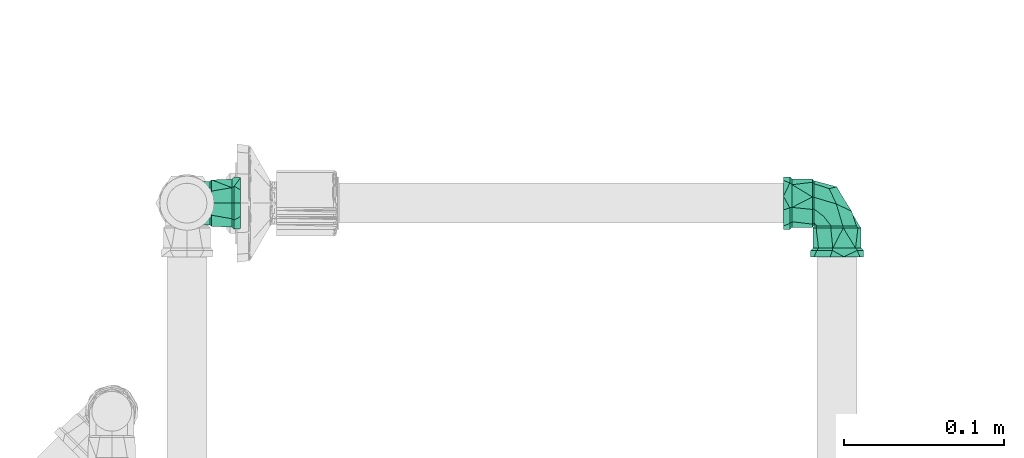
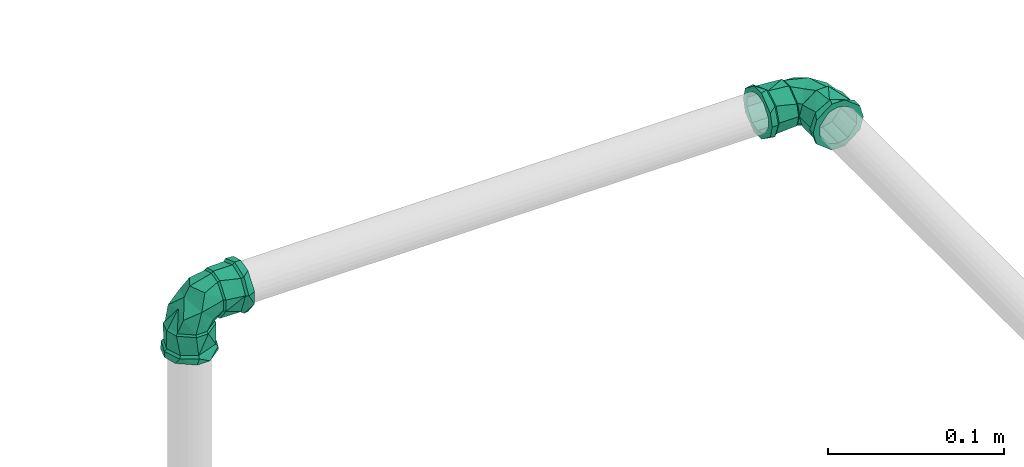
# One storey, part 382 of 589: 2 flow fittings.
"""IFC2X3 building model written with IfcOpenShell, lengths in millimetres."""

from ifc_helpers import new_model, entity, si_unit, converted_unit, derived_unit, direction, frame, origin, place, context, subcontext, project, spatial, faceted_brep, source, transform, mapped, material, type_object, type_shapes, element, save


model = new_model("IFC2X3")

# Units and contexts
model_context = context("Model", 3, precision=0.01, world=origin(), true_north=direction((6.123031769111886e-17, 1.0)))
body_context = subcontext(model_context, "Body", "Model", "MODEL_VIEW")
ifc_project = project(units=[si_unit("LENGTHUNIT", "METRE", prefix="MILLI"), si_unit("AREAUNIT", "SQUARE_METRE"), si_unit("VOLUMEUNIT", "CUBIC_METRE"), converted_unit("PLANEANGLEUNIT", "DEGREE", entity("IfcRatioMeasure", 0.017453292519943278), si_unit("PLANEANGLEUNIT", "RADIAN"), dimensions=[0, 0, 0, 0, 0, 0, 0]), si_unit("MASSUNIT", "GRAM", prefix="KILO"), derived_unit("MASSDENSITYUNIT", [(si_unit("MASSUNIT", "GRAM", prefix="KILO"), 1), (si_unit("LENGTHUNIT", "METRE"), -3)]), derived_unit("IONCONCENTRATIONUNIT", [(si_unit("MASSUNIT", "GRAM", prefix="KILO"), 1), (si_unit("LENGTHUNIT", "METRE"), -3)]), derived_unit("MOMENTOFINERTIAUNIT", [(si_unit("LENGTHUNIT", "METRE"), 4)]), si_unit("TIMEUNIT", "SECOND"), si_unit("FREQUENCYUNIT", "HERTZ"), si_unit("THERMODYNAMICTEMPERATUREUNIT", "DEGREE_CELSIUS"), derived_unit("THERMALTRANSMITTANCEUNIT", [(si_unit("MASSUNIT", "GRAM", prefix="KILO"), 1), (si_unit("THERMODYNAMICTEMPERATUREUNIT", "KELVIN"), -1), (si_unit("TIMEUNIT", "SECOND"), -3)]), derived_unit("THERMALCONDUCTANCEUNIT", [(si_unit("MASSUNIT", "GRAM", prefix="KILO"), 1), (si_unit("THERMODYNAMICTEMPERATUREUNIT", "KELVIN"), -1), (si_unit("TIMEUNIT", "SECOND"), -3), (si_unit("LENGTHUNIT", "METRE"), 1)]), derived_unit("VOLUMETRICFLOWRATEUNIT", [(si_unit("LENGTHUNIT", "METRE"), 3), (si_unit("TIMEUNIT", "SECOND"), -1)]), derived_unit("MASSFLOWRATEUNIT", [(si_unit("MASSUNIT", "GRAM", prefix="KILO"), 1), (si_unit("TIMEUNIT", "SECOND"), -1)]), derived_unit("ROTATIONALFREQUENCYUNIT", [(si_unit("TIMEUNIT", "SECOND"), -1)]), si_unit("ELECTRICCURRENTUNIT", "AMPERE"), si_unit("ELECTRICVOLTAGEUNIT", "VOLT"), si_unit("POWERUNIT", "WATT"), si_unit("FORCEUNIT", "NEWTON", prefix="KILO"), si_unit("ILLUMINANCEUNIT", "LUX"), si_unit("LUMINOUSFLUXUNIT", "LUMEN"), si_unit("LUMINOUSINTENSITYUNIT", "CANDELA"), derived_unit("USERDEFINED", [(si_unit("MASSUNIT", "GRAM", prefix="KILO"), -1), (si_unit("LENGTHUNIT", "METRE"), -2), (si_unit("TIMEUNIT", "SECOND"), 3), (si_unit("LUMINOUSFLUXUNIT", "LUMEN"), 1)]), derived_unit("USERDEFINED", [(si_unit("MASSUNIT", "GRAM", prefix="KILO"), 1), (si_unit("TIMEUNIT", "SECOND"), -3), (si_unit("LENGTHUNIT", "METRE"), 3), (si_unit("ELECTRICCURRENTUNIT", "AMPERE"), -2)]), derived_unit("SOUNDPOWERUNIT", [(si_unit("MASSUNIT", "GRAM", prefix="KILO"), 1), (si_unit("TIMEUNIT", "SECOND"), -3), (si_unit("LENGTHUNIT", "METRE"), 2)]), derived_unit("SOUNDPRESSUREUNIT", [(si_unit("MASSUNIT", "GRAM", prefix="KILO"), 1), (si_unit("LENGTHUNIT", "METRE"), -1), (si_unit("TIMEUNIT", "SECOND"), -2)]), derived_unit("LINEARVELOCITYUNIT", [(si_unit("LENGTHUNIT", "METRE"), 1), (si_unit("TIMEUNIT", "SECOND"), -1)]), si_unit("PRESSUREUNIT", "PASCAL"), derived_unit("USERDEFINED", [(si_unit("MASSUNIT", "GRAM", prefix="KILO"), 1), (si_unit("LENGTHUNIT", "METRE"), -2), (si_unit("TIMEUNIT", "SECOND"), -2)]), derived_unit("LINEARFORCEUNIT", [(si_unit("MASSUNIT", "GRAM", prefix="KILO"), 1), (si_unit("TIMEUNIT", "SECOND"), -2)]), derived_unit("PLANARFORCEUNIT", [(si_unit("MASSUNIT", "GRAM", prefix="KILO"), 1), (si_unit("LENGTHUNIT", "METRE"), -1), (si_unit("TIMEUNIT", "SECOND"), -2)]), derived_unit("SPECIFICHEATCAPACITYUNIT", [(si_unit("THERMODYNAMICTEMPERATUREUNIT", "KELVIN"), -1), (si_unit("LENGTHUNIT", "METRE"), 2), (si_unit("TIMEUNIT", "SECOND"), -2)]), derived_unit("HEATINGVALUEUNIT", [(si_unit("LENGTHUNIT", "METRE"), 2), (si_unit("TIMEUNIT", "SECOND"), -2)]), derived_unit("VAPORPERMEABILITYUNIT", [(si_unit("LENGTHUNIT", "METRE"), -1), (si_unit("TIMEUNIT", "SECOND"), 1)]), derived_unit("DYNAMICVISCOSITYUNIT", [(si_unit("MASSUNIT", "GRAM", prefix="KILO"), 1), (si_unit("TIMEUNIT", "SECOND"), -1), (si_unit("LENGTHUNIT", "METRE"), -1)]), derived_unit("THERMALEXPANSIONCOEFFICIENTUNIT", [(si_unit("THERMODYNAMICTEMPERATUREUNIT", "KELVIN"), -1)]), derived_unit("MODULUSOFELASTICITYUNIT", [(si_unit("MASSUNIT", "GRAM", prefix="KILO"), 1), (si_unit("LENGTHUNIT", "METRE"), -1), (si_unit("TIMEUNIT", "SECOND"), -2)]), derived_unit("ISOTHERMALMOISTURECAPACITYUNIT", [(si_unit("LENGTHUNIT", "METRE"), 3), (si_unit("MASSUNIT", "GRAM", prefix="KILO"), -1)]), derived_unit("MOISTUREDIFFUSIVITYUNIT", [(si_unit("TIMEUNIT", "SECOND"), -1), (si_unit("LENGTHUNIT", "METRE"), 2)])], contexts=[model_context])

# Site, building, storey
site_placement = place(None, origin())
site = spatial("IfcSite", under=ifc_project, at=site_placement, Name="Default", CompositionType="ELEMENT")
building_placement = place(site_placement, origin())
building = spatial("IfcBuilding", under=site, at=building_placement, CompositionType="ELEMENT")
storey_placement = place(building_placement, frame((0.0, 0.0, 100.0)))
storey = spatial("IfcBuildingStorey", under=building, at=storey_placement, Name="TÉRREO", CompositionType="ELEMENT", Elevation=100.0)

# Flow fittings
ifc_material = material(Name="PVC Marrom")
pipe_fitting_type = type_object("IfcPipeFittingType", Name="PVC Marrom Soldável_Joelho 45°_90°_Rodrigo MEP:Joelho", PredefinedType="NOTDEFINED", material=ifc_material)
shared_shape = source(origin(), body_context, "Body", "Brep", [
    faceted_brep([(3.908167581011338, 15.40000000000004, 14.585479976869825), (13.076983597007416, 15.40000000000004, 7.549999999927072), (15.099999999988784, 15.40000000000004, 0.0), (13.076983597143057, 15.40000000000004, -7.55000000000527), (3.9081675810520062, 15.40000000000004, -14.585479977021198), (-3.9081675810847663, 15.40000000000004, -14.585479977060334), (-13.076983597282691, 15.40000000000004, -7.550000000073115), (-15.100000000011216, 15.40000000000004, 0.0), (-13.076983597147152, 15.40000000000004, 7.549999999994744), (-3.908167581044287, 15.40000000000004, 14.585479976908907), (-3.633819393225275, 14.30000000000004, 13.561598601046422), (-12.158996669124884, 14.30000000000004, 7.0199999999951), (-14.040000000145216, 14.30000000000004, 0.0), (-12.158996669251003, 14.30000000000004, -7.020000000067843), (-3.6338193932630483, 14.30000000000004, -13.561598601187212), (3.6338193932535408, 14.30000000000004, -13.561598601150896), (12.158996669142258, 14.30000000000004, -7.020000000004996), (14.039999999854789, 14.30000000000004, 0.0), (12.158996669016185, 14.30000000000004, 7.0199999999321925), (3.6338193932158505, 14.30000000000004, 13.561598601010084)], [[[0, 1, 2, 3, 4, 5, 6, 7, 8, 9]], [[10, 11, 12, 13, 14, 15, 16, 17, 18, 19]], [[3, 17, 16]], [[4, 3, 16, 15]], [[3, 2, 17]], [[15, 14, 5, 4]], [[6, 5, 14, 13]], [[7, 13, 12]], [[7, 6, 13]], [[8, 12, 11]], [[9, 8, 11, 10]], [[8, 7, 12]], [[10, 19, 0, 9]], [[1, 0, 19, 18]], [[2, 18, 17]], [[2, 1, 18]]]),
    faceted_brep([(-15.399999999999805, 3.908167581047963, 14.585479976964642), (-15.399999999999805, 13.076983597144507, 7.549999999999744), (-15.399999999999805, 15.100000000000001, 0.0), (-15.399999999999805, 13.076983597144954, -7.54999999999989), (-15.399999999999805, 3.9081675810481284, -14.58547997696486), (-15.399999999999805, -3.9081675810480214, -14.585479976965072), (-15.399999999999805, -13.0769835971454, -7.550000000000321), (-15.399999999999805, -15.099999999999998, 0.0), (-15.399999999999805, -13.076983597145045, 7.550000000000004), (-15.399999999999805, -3.908167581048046, 14.585479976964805), (-14.299999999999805, 12.158996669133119, 7.019999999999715), (-14.299999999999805, 3.6338193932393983, 13.561598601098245), (-14.299999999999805, -3.633819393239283, 13.56159860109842), (-14.299999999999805, -12.15899666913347, 7.020000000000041), (-14.299999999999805, -14.040000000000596, 0.0), (-14.299999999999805, -12.158996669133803, -7.020000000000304), (-14.299999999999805, -3.63381939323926, -13.561598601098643), (-14.299999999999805, 3.6338193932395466, -13.56159860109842), (-14.299999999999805, 12.158996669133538, -7.019999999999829), (-14.299999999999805, 14.03999999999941, 0.0)], [[[0, 1, 2, 3, 4, 5, 6, 7, 8, 9]], [[10, 11, 12, 13, 14, 15, 16, 17, 18, 19]], [[3, 2, 19, 18]], [[4, 3, 18, 17]], [[17, 16, 5, 4]], [[6, 5, 16, 15]], [[7, 6, 15, 14]], [[8, 7, 14, 13]], [[9, 8, 13, 12]], [[12, 11, 0, 9]], [[1, 0, 11, 10]], [[2, 1, 10, 19]]]),
    faceted_brep([(-33.4999999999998, -4.2705142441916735, -15.937776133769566), (-33.4999999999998, -6.250000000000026, -10.825317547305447), (-33.4999999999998, 0.0, -12.5), (-33.4999999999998, -14.289419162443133, -8.25000000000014), (-33.4999999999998, 4.270514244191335, -15.937776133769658), (-33.4999999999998, -12.074072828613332, -3.23523806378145), (-33.4999999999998, -16.499999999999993, 0.0), (-33.4999999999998, -12.074072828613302, 3.2352380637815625), (-33.4999999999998, -14.289419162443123, 8.249999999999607), (-33.4999999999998, -6.249999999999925, 10.825317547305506), (-33.4999999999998, -4.27051424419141, 15.937776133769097), (-33.4999999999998, 0.0, 12.5), (-33.4999999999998, 4.270514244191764, 15.937776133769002), (-33.4999999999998, 6.249999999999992, 10.825317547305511), (-33.4999999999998, 14.28941916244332, 8.249999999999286), (-33.4999999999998, 12.074072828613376, 3.2352380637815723), (-33.4999999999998, 16.500000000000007, 0.0), (-33.4999999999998, 12.074072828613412, -3.235238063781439), (-33.4999999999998, 14.289419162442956, -8.250000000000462), (-33.4999999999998, 6.250000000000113, -10.82531754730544), (-29.499999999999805, 16.5, 0.0), (-29.500000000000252, 12.639142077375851, 10.606700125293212), (-29.50000000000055, 2.8633833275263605, 16.249647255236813), (-29.50000000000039, -12.64180232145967, 10.603529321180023), (-29.499999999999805, -16.499999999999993, 0.0), (-29.500000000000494, -4.889209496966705, 13.426588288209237), (-29.49999999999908, -12.641802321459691, -10.603529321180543), (-29.49999999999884, -2.8674593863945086, -16.24892847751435), (-29.499999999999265, 12.639142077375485, -10.606700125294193), (-29.499999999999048, 4.885841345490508, -13.427814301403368), (-28.099999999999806, -15.099999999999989, 0.0), (-28.10000000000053, -11.56916454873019, 9.703835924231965), (-28.100000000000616, -4.474367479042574, 12.287362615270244), (-28.1000000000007, 2.6204295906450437, 14.870889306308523), (-28.100000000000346, 11.566730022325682, 9.706737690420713), (-28.09999999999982, 15.099999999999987, 0.0), (-28.099999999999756, 11.566730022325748, -9.706737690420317), (-28.09999999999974, 4.4712851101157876, -12.28848460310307), (-28.09999999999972, -2.6241598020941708, -14.870231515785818), (-28.09999999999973, -11.569164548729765, -9.703835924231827), (-15.399999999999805, 0.0, -12.5), (-15.399999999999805, -6.250000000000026, -10.825317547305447), (-15.399999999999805, -3.908167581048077, -14.585479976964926), (-15.399999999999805, 3.9081675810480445, -14.585479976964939), (-15.399999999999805, 6.250000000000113, -10.82531754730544), (-15.399999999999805, -13.076983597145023, -7.549999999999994), (-15.399999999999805, -12.074072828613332, -3.23523806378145), (-15.399999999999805, -15.099999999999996, 0.0), (-15.399999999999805, -12.074072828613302, 3.2352380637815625), (-15.399999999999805, -13.076983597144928, 7.550000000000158), (-15.399999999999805, -6.249999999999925, 10.825317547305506), (-15.399999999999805, -3.9081675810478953, 14.585479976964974), (-15.399999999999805, 0.0, 12.5), (-15.399999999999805, 3.9081675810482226, 14.58547997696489), (-15.399999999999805, 6.249999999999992, 10.825317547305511), (-15.399999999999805, 13.076983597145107, 7.549999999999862), (-15.399999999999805, 12.074072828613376, 3.2352380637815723), (-15.399999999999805, 15.100000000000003, 0.0), (-15.399999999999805, 12.074072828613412, -3.235238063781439), (-15.399999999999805, 13.076983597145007, -7.550000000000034)], [[[0, 1, 2]], [[1, 0, 3]], [[2, 4, 0]], [[3, 5, 1]], [[3, 6, 5]], [[5, 6, 7]], [[8, 7, 6]], [[7, 8, 9]], [[10, 9, 8]], [[9, 10, 11]], [[11, 10, 12]], [[12, 13, 11]], [[14, 13, 12]], [[13, 14, 15]], [[16, 15, 14]], [[16, 17, 15]], [[18, 17, 16]], [[19, 17, 18]], [[19, 18, 4]], [[4, 2, 19]], [[16, 14, 20]], [[14, 21, 20]], [[21, 14, 12]], [[21, 12, 22]], [[23, 10, 8]], [[24, 8, 6]], [[10, 23, 25, 22]], [[23, 8, 24]], [[10, 22, 12]], [[6, 3, 24]], [[3, 26, 24]], [[26, 3, 0]], [[26, 0, 27]], [[28, 4, 18]], [[20, 18, 16]], [[4, 28, 29, 27]], [[28, 18, 20]], [[4, 27, 0]], [[30, 31, 23, 24]], [[31, 32, 33, 22, 25, 23]], [[34, 35, 20, 21]], [[34, 21, 22, 33]], [[35, 36, 28, 20]], [[36, 37, 38, 27, 29, 28]], [[39, 30, 24, 26]], [[39, 26, 27, 38]], [[40, 41, 42]], [[42, 43, 40]], [[44, 40, 43]], [[45, 42, 41]], [[41, 46, 45]], [[46, 47, 45]], [[48, 47, 46]], [[47, 48, 49]], [[50, 49, 48]], [[49, 50, 51]], [[52, 51, 50]], [[53, 51, 52]], [[52, 54, 53]], [[53, 54, 55]], [[56, 55, 54]], [[55, 56, 57]], [[56, 58, 57]], [[59, 58, 44]], [[57, 58, 59]], [[43, 59, 44]], [[35, 34, 55]], [[35, 55, 57]], [[55, 34, 53]], [[34, 33, 53]], [[51, 33, 32, 31]], [[49, 31, 30]], [[31, 49, 51]], [[49, 30, 47]], [[33, 51, 53]], [[30, 39, 45]], [[30, 45, 47]], [[45, 39, 42]], [[39, 38, 42]], [[43, 38, 37, 36]], [[59, 36, 35]], [[36, 59, 43]], [[59, 35, 57]], [[38, 43, 42]], [[9, 11, 52, 50]], [[7, 9, 50, 48]], [[48, 46, 5, 7]], [[1, 5, 46, 41]], [[2, 1, 41, 40]], [[19, 2, 40, 44]], [[17, 19, 44, 58]], [[58, 56, 15, 17]], [[13, 15, 56, 54]], [[11, 13, 54, 52]]]),
    faceted_brep([(-14.299999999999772, -3.6338193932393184, -13.561598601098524), (-14.299999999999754, -12.158996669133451, -7.020000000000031), (-14.29999999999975, -14.039999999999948, 0.0), (-14.299999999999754, -12.158996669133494, 7.019999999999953), (-14.299999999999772, -3.6338193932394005, 13.561598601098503), (-14.299999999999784, 3.633819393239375, 13.561598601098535), (-14.299999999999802, 12.158996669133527, 7.0200000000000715), (-14.299999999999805, 14.04000000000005, 0.0), (-14.299999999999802, 12.158996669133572, -7.019999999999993), (-14.299999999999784, 3.63381939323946, -13.561598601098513), (3.633819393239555, 14.29999999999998, -13.561598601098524), (-3.633819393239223, 14.300000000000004, -13.561598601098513), (-12.158996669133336, 14.300000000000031, -7.019999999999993), (-14.039999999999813, 14.300000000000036, 0.0), (-12.158996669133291, 14.300000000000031, 7.0200000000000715), (-3.6338193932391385, 14.300000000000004, 13.561598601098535), (3.6338193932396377, 14.29999999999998, 13.561598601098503), (12.158996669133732, 14.299999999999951, 7.019999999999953), (14.040000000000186, 14.299999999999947, 0.0), (12.158996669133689, 14.299999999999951, -7.020000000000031), (-0.45476175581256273, 0.4547603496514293, 13.009299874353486), (-4.991226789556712, -9.102895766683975, 8.866254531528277), (-2.689013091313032, -7.336393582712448, 0.0), (3.7770734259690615, -3.6031967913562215, 0.0), (9.09033094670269, 4.905775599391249, 8.841582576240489), (10.243159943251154, 0.13000000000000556, 0.0), (-14.116152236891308, 14.116152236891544, 0.0), (-8.296884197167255, 8.29688403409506, 12.78130953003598), (-0.454761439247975, 0.45476027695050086, -13.009299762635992), (-8.296884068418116, 8.296883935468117, -12.78130960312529), (9.090330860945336, 4.90577564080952, -8.84158269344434), (-4.991226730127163, -9.10289574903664, -8.866254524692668)], [[[0, 1, 2, 3, 4, 5, 6, 7, 8, 9]], [[10, 11, 12, 13, 14, 15, 16, 17, 18, 19]], [[4, 20, 5]], [[21, 3, 22]], [[20, 4, 21]], [[21, 22, 23]], [[17, 24, 25]], [[26, 6, 14]], [[23, 20, 21]], [[26, 7, 6]], [[6, 5, 27]], [[3, 2, 22]], [[20, 23, 24]], [[25, 18, 17]], [[20, 27, 5]], [[16, 20, 24]], [[17, 16, 24]], [[6, 27, 14]], [[26, 14, 13]], [[21, 4, 3]], [[27, 15, 14]], [[27, 20, 15]], [[23, 25, 24]], [[15, 20, 16]], [[8, 7, 26]], [[28, 29, 11]], [[28, 10, 30]], [[8, 12, 29]], [[31, 22, 1]], [[31, 23, 22]], [[28, 9, 29]], [[19, 30, 10]], [[0, 28, 31]], [[1, 22, 2]], [[8, 26, 12]], [[12, 11, 29]], [[8, 29, 9]], [[31, 1, 0]], [[10, 28, 11]], [[30, 19, 25]], [[0, 9, 28]], [[19, 18, 25]], [[25, 23, 30]], [[23, 31, 28]], [[30, 23, 28]], [[12, 26, 13]]]),
    faceted_brep([(0.0, 15.40000000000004, -12.5), (-6.249999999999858, 15.40000000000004, -10.825317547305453), (-3.908167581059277, 15.40000000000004, -14.585479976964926), (3.9081675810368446, 15.40000000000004, -14.585479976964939), (6.250000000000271, 15.40000000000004, -10.82531754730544), (-13.076983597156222, 15.40000000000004, -7.549999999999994), (-12.07407282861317, 15.40000000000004, -3.235238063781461), (-15.100000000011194, 15.40000000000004, 0.0), (-12.074072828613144, 15.40000000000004, 3.2352380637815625), (-13.076983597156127, 15.40000000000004, 7.550000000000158), (-6.249999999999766, 15.40000000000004, 10.825317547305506), (-3.9081675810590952, 15.40000000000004, 14.585479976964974), (0.0, 15.40000000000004, 12.5), (3.9081675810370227, 15.40000000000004, 14.58547997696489), (6.250000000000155, 15.40000000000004, 10.825317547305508), (13.076983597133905, 15.40000000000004, 7.549999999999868), (12.074072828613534, 15.40000000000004, 3.2352380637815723), (15.099999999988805, 15.40000000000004, 0.0), (12.07407282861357, 15.40000000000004, -3.235238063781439), (13.07698359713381, 15.40000000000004, -7.550000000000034), (15.099999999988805, 28.10000000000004, 0.0), (11.56673002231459, 28.100000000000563, 9.706737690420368), (4.471285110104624, 28.10000000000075, 12.288484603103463), (-2.624159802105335, 28.100000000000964, 14.870231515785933), (-11.569164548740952, 28.10000000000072, 9.703835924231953), (-15.100000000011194, 28.10000000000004, 0.0), (-11.569164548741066, 28.10000000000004, -9.703835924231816), (-4.474367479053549, 28.10000000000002, -12.287362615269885), (2.6204295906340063, 28.099999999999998, -14.870889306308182), (11.566730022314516, 28.10000000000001, -9.706737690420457), (-12.639142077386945, 29.50000000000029, 10.606700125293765), (-16.50000000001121, 29.500000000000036, 0.0), (-2.8633833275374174, 29.50000000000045, 16.249647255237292), (12.641802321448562, 29.500000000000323, 10.603529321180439), (4.889209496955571, 29.500000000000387, 13.426588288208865), (16.499999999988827, 29.50000000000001, 0.0), (12.64180232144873, 29.500000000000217, -10.603529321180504), (2.867459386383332, 29.500000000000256, -16.24892847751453), (-12.639142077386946, 29.500000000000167, -10.606700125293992), (-4.885841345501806, 29.500000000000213, -13.427814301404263), (-4.270514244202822, 33.50000000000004, -15.937776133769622), (-6.249999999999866, 33.50000000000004, -10.825317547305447), (0.0, 33.50000000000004, -12.5), (-14.289419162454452, 33.50000000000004, -8.249999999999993), (4.270514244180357, 33.50000000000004, -15.937776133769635), (-12.074072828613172, 33.50000000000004, -3.23523806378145), (-16.50000000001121, 33.50000000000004, 0.0), (-12.074072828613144, 33.50000000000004, 3.2352380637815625), (-14.28941916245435, 33.50000000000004, 8.250000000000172), (-6.2499999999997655, 33.50000000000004, 10.825317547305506), (-4.270514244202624, 33.50000000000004, 15.937776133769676), (0.0, 33.50000000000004, 12.5), (4.270514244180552, 33.50000000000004, 15.937776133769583), (6.250000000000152, 33.50000000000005, 10.825317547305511), (14.289419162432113, 33.50000000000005, 8.249999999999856), (12.074072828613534, 33.50000000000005, 3.2352380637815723), (16.49999999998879, 33.50000000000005, 0.0), (12.07407282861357, 33.50000000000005, -3.235238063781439), (14.289419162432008, 33.50000000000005, -8.250000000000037), (6.250000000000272, 33.50000000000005, -10.82531754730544)], [[[0, 1, 2]], [[2, 3, 0]], [[4, 0, 3]], [[5, 2, 1]], [[1, 6, 5]], [[6, 7, 5]], [[8, 7, 6]], [[7, 8, 9]], [[10, 9, 8]], [[9, 10, 11]], [[12, 11, 10]], [[13, 11, 12]], [[12, 14, 13]], [[13, 14, 15]], [[16, 15, 14]], [[15, 16, 17]], [[16, 18, 17]], [[19, 18, 4]], [[17, 18, 19]], [[3, 19, 4]], [[20, 21, 15]], [[20, 15, 17]], [[15, 21, 13]], [[13, 21, 22, 23]], [[11, 23, 24]], [[9, 24, 25]], [[24, 9, 11]], [[9, 25, 7]], [[23, 11, 13]], [[25, 26, 5]], [[25, 5, 7]], [[5, 26, 2]], [[2, 26, 27, 28]], [[3, 28, 29]], [[19, 29, 20]], [[29, 19, 3]], [[19, 20, 17]], [[28, 3, 2]], [[24, 23, 30]], [[25, 24, 31]], [[31, 24, 30]], [[23, 32, 30]], [[21, 20, 33]], [[21, 33, 34]], [[22, 32, 23]], [[35, 33, 20]], [[32, 22, 34]], [[22, 21, 34]], [[20, 29, 36]], [[36, 35, 20]], [[37, 36, 29]], [[38, 39, 27]], [[29, 28, 37]], [[26, 25, 31]], [[38, 27, 26]], [[38, 26, 31]], [[28, 39, 37]], [[39, 28, 27]], [[40, 41, 42]], [[41, 40, 43]], [[42, 44, 40]], [[43, 45, 41]], [[43, 46, 45]], [[45, 46, 47]], [[48, 47, 46]], [[47, 48, 49]], [[50, 49, 48]], [[49, 50, 51]], [[51, 50, 52]], [[52, 53, 51]], [[54, 53, 52]], [[53, 54, 55]], [[56, 55, 54]], [[56, 57, 55]], [[58, 57, 56]], [[59, 57, 58]], [[59, 58, 44]], [[44, 42, 59]], [[56, 54, 35]], [[54, 33, 35]], [[33, 54, 52]], [[52, 32, 34, 33]], [[30, 50, 48]], [[31, 48, 46]], [[50, 30, 32]], [[30, 48, 31]], [[50, 32, 52]], [[46, 43, 31]], [[43, 38, 31]], [[38, 43, 40]], [[40, 37, 39, 38]], [[36, 44, 58]], [[35, 58, 56]], [[44, 36, 37]], [[36, 58, 35]], [[44, 37, 40]], [[49, 51, 12, 10]], [[47, 49, 10, 8]], [[8, 6, 45, 47]], [[41, 45, 6, 1]], [[42, 41, 1, 0]], [[59, 42, 0, 4]], [[57, 59, 4, 18]], [[18, 16, 55, 57]], [[53, 55, 16, 14]], [[51, 53, 14, 12]]]),
])
type_shapes(pipe_fitting_type, [shared_shape])
for number, where, z_axis, x_axis in (
    (1, (431.84239219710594, -5595.395968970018, 2970.0), (0.0, 1.0, 0.0), (0.0, 0.0, 1.0)),
    (2, (838.0963413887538, -5595.395968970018, 2970.0), (0.0, 0.0, 1.0), (0.0, 1.0, 0.0)),
):
    element("IfcFlowFitting", number, at=place(storey_placement, frame(where, z_axis=z_axis, x_axis=x_axis)), inside=storey, type_object=pipe_fitting_type, material=ifc_material, Name="PVC Marrom Soldável_Joelho 45°_90°_Rodrigo MEP:Joelho", ObjectType="PVC Marrom Soldável_Joelho 45°_90°_Rodrigo MEP:Joelho", context=body_context, shape_type="MappedRepresentation", body=[
        mapped(shared_shape, transform((0.0, 0.0, 0.0), scale=1.0)),
    ])

save(model, "model.ifc")
